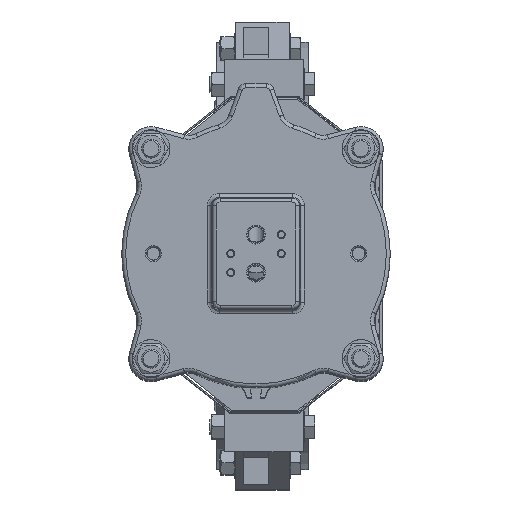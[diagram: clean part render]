
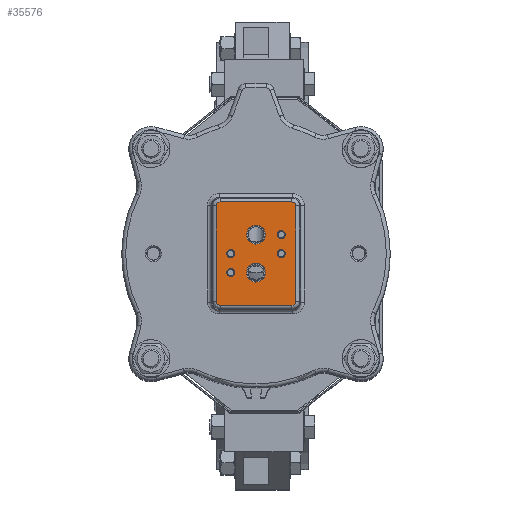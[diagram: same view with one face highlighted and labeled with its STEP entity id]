
A CAD part, top view. The second image highlights one B-rep face of the part: STEP entity #35576.
In plain terms, the highlighted planar face has unit normal (0, 0, 1).
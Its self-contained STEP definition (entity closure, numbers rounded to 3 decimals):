
#772=ELLIPSE('',#38131,2.519,2.5);
#773=ELLIPSE('',#38135,2.519,2.5);
#774=ELLIPSE('',#38139,2.519,2.5);
#775=ELLIPSE('',#38142,2.519,2.5);
#2406=FACE_BOUND('',#5481,.T.);
#2407=FACE_BOUND('',#5482,.T.);
#2408=FACE_BOUND('',#5483,.T.);
#2409=FACE_BOUND('',#5484,.T.);
#2410=FACE_BOUND('',#5485,.T.);
#2411=FACE_BOUND('',#5486,.T.);
#3153=FACE_OUTER_BOUND('',#5480,.T.);
#5480=EDGE_LOOP('',(#23341,#23342,#23343,#23344,#23345,#23346,#23347,#23348));
#5481=EDGE_LOOP('',(#23349));
#5482=EDGE_LOOP('',(#23350));
#5483=EDGE_LOOP('',(#23351));
#5484=EDGE_LOOP('',(#23352));
#5485=EDGE_LOOP('',(#23353));
#5486=EDGE_LOOP('',(#23354));
#8167=LINE('',#53810,#10235);
#8168=LINE('',#53843,#10236);
#8169=LINE('',#53875,#10237);
#8170=LINE('',#53907,#10238);
#10235=VECTOR('',#43087,10.);
#10236=VECTOR('',#43098,10.);
#10237=VECTOR('',#43107,10.);
#10238=VECTOR('',#43116,10.);
#12363=CIRCLE('',#38163,6.);
#12365=CIRCLE('',#38166,6.);
#12374=CIRCLE('',#38183,2.5);
#12377=CIRCLE('',#38188,2.5);
#12380=CIRCLE('',#38193,2.5);
#12382=CIRCLE('',#38197,2.5);
#14478=VERTEX_POINT('',#53807);
#14479=VERTEX_POINT('',#53809);
#14480=VERTEX_POINT('',#53837);
#14481=VERTEX_POINT('',#53841);
#14482=VERTEX_POINT('',#53869);
#14483=VERTEX_POINT('',#53873);
#14484=VERTEX_POINT('',#53901);
#14485=VERTEX_POINT('',#53905);
#14503=VERTEX_POINT('',#53995);
#14505=VERTEX_POINT('',#54000);
#14514=VERTEX_POINT('',#54026);
#14517=VERTEX_POINT('',#54034);
#14520=VERTEX_POINT('',#54042);
#14522=VERTEX_POINT('',#54048);
#17868=EDGE_CURVE('',#14478,#14479,#8167,.T.);
#17871=EDGE_CURVE('',#14480,#14478,#772,.T.);
#17873=EDGE_CURVE('',#14481,#14480,#8168,.T.);
#17875=EDGE_CURVE('',#14482,#14481,#773,.T.);
#17877=EDGE_CURVE('',#14483,#14482,#8169,.T.);
#17879=EDGE_CURVE('',#14484,#14483,#774,.T.);
#17881=EDGE_CURVE('',#14485,#14484,#8170,.T.);
#17882=EDGE_CURVE('',#14479,#14485,#775,.T.);
#17900=EDGE_CURVE('',#14503,#14503,#12363,.T.);
#17902=EDGE_CURVE('',#14505,#14505,#12365,.T.);
#17911=EDGE_CURVE('',#14514,#14514,#12374,.T.);
#17914=EDGE_CURVE('',#14517,#14517,#12377,.T.);
#17917=EDGE_CURVE('',#14520,#14520,#12380,.T.);
#17919=EDGE_CURVE('',#14522,#14522,#12382,.T.);
#23341=ORIENTED_EDGE('',*,*,#17882,.F.);
#23342=ORIENTED_EDGE('',*,*,#17868,.F.);
#23343=ORIENTED_EDGE('',*,*,#17871,.F.);
#23344=ORIENTED_EDGE('',*,*,#17873,.F.);
#23345=ORIENTED_EDGE('',*,*,#17875,.F.);
#23346=ORIENTED_EDGE('',*,*,#17877,.F.);
#23347=ORIENTED_EDGE('',*,*,#17879,.F.);
#23348=ORIENTED_EDGE('',*,*,#17881,.F.);
#23349=ORIENTED_EDGE('',*,*,#17917,.F.);
#23350=ORIENTED_EDGE('',*,*,#17911,.F.);
#23351=ORIENTED_EDGE('',*,*,#17900,.F.);
#23352=ORIENTED_EDGE('',*,*,#17902,.F.);
#23353=ORIENTED_EDGE('',*,*,#17914,.F.);
#23354=ORIENTED_EDGE('',*,*,#17919,.F.);
#32232=PLANE('',#38196);
#35576=ADVANCED_FACE('',(#3153,#2406,#2407,#2408,#2409,#2410,#2411),#32232,
 .F.);
#38131=AXIS2_PLACEMENT_3D('',#53839,#43092,#43093);
#38135=AXIS2_PLACEMENT_3D('',#53871,#43101,#43102);
#38139=AXIS2_PLACEMENT_3D('',#53903,#43110,#43111);
#38142=AXIS2_PLACEMENT_3D('',#53933,#43117,#43118);
#38163=AXIS2_PLACEMENT_3D('',#53996,#43161,#43162);
#38166=AXIS2_PLACEMENT_3D('',#54001,#43167,#43168);
#38183=AXIS2_PLACEMENT_3D('',#54027,#43201,#43202);
#38188=AXIS2_PLACEMENT_3D('',#54035,#43211,#43212);
#38193=AXIS2_PLACEMENT_3D('',#54043,#43221,#43222);
#38196=AXIS2_PLACEMENT_3D('',#54047,#43227,#43228);
#38197=AXIS2_PLACEMENT_3D('',#54049,#43229,#43230);
#43087=DIRECTION('',(1.,0.,0.));
#43092=DIRECTION('center_axis',(0.,0.,
-1.));
#43093=DIRECTION('ref_axis',(-0.707,0.707,0.));
#43098=DIRECTION('',(0.,1.,0.));
#43101=DIRECTION('center_axis',(0.,0.,
-1.));
#43102=DIRECTION('ref_axis',(-0.707,-0.707,0.));
#43107=DIRECTION('',(-1.,0.,0.));
#43110=DIRECTION('center_axis',(0.,0.,
-1.));
#43111=DIRECTION('ref_axis',(0.707,-0.707,0.));
#43116=DIRECTION('',(0.,-1.,0.));
#43117=DIRECTION('center_axis',(0.,0.,
-1.));
#43118=DIRECTION('ref_axis',(0.707,0.707,0.));
#43161=DIRECTION('center_axis',(0.,0.,
1.));
#43162=DIRECTION('ref_axis',(0.,-1.,0.));
#43167=DIRECTION('center_axis',(0.,0.,
1.));
#43168=DIRECTION('ref_axis',(0.,-1.,0.));
#43201=DIRECTION('center_axis',(0.,0.,
1.));
#43202=DIRECTION('ref_axis',(0.,-1.,0.));
#43211=DIRECTION('center_axis',(0.,0.,
1.));
#43212=DIRECTION('ref_axis',(0.,-1.,0.));
#43221=DIRECTION('center_axis',(0.,0.,
1.));
#43222=DIRECTION('ref_axis',(0.,-1.,0.));
#43227=DIRECTION('center_axis',(0.,0.,
-1.));
#43228=DIRECTION('ref_axis',(0.,-1.,0.));
#43229=DIRECTION('center_axis',(0.,0.,
1.));
#43230=DIRECTION('ref_axis',(0.,-1.,0.));
#53807=CARTESIAN_POINT('',(-22.719,32.709,864.5));
#53809=CARTESIAN_POINT('',(22.719,32.709,864.5));
#53810=CARTESIAN_POINT('',(13.75,32.709,864.5));
#53837=CARTESIAN_POINT('',(-25.209,30.219,864.5));
#53839=CARTESIAN_POINT('Origin',(-22.7,30.2,864.5));
#53841=CARTESIAN_POINT('',(-25.209,-30.219,864.5));
#53843=CARTESIAN_POINT('',(-25.209,17.5,864.5));
#53869=CARTESIAN_POINT('',(-22.719,-32.709,864.5));
#53871=CARTESIAN_POINT('Origin',(-22.7,-30.2,864.5));
#53873=CARTESIAN_POINT('',(22.719,-32.709,864.5));
#53875=CARTESIAN_POINT('',(-13.75,-32.709,864.5));
#53901=CARTESIAN_POINT('',(25.209,-30.219,864.5));
#53903=CARTESIAN_POINT('Origin',(22.7,-30.2,864.5));
#53905=CARTESIAN_POINT('',(25.209,30.219,864.5));
#53907=CARTESIAN_POINT('',(25.209,-17.5,864.5));
#53933=CARTESIAN_POINT('Origin',(22.7,30.2,864.5));
#53995=CARTESIAN_POINT('',(0.,18.,864.5));
#53996=CARTESIAN_POINT('Origin',(0.,12.,
864.5));
#54000=CARTESIAN_POINT('',(0.,-6.,864.5));
#54001=CARTESIAN_POINT('Origin',(0.,-12.,
864.5));
#54026=CARTESIAN_POINT('',(16.,14.5,864.5));
#54027=CARTESIAN_POINT('Origin',(16.,12.,864.5));
#54034=CARTESIAN_POINT('',(16.,2.5,864.5));
#54035=CARTESIAN_POINT('Origin',(16.,0.,
864.5));
#54042=CARTESIAN_POINT('',(-16.,2.5,864.5));
#54043=CARTESIAN_POINT('Origin',(-16.,0.,
864.5));
#54047=CARTESIAN_POINT('Origin',(0.,0.,
864.5));
#54048=CARTESIAN_POINT('',(-16.,-9.5,864.5));
#54049=CARTESIAN_POINT('Origin',(-16.,-12.,864.5));
